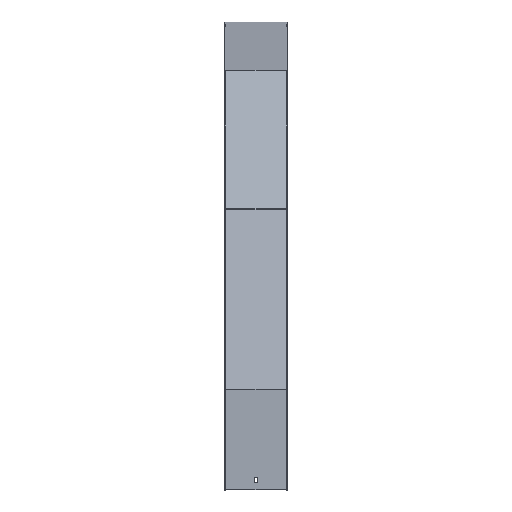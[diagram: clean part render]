
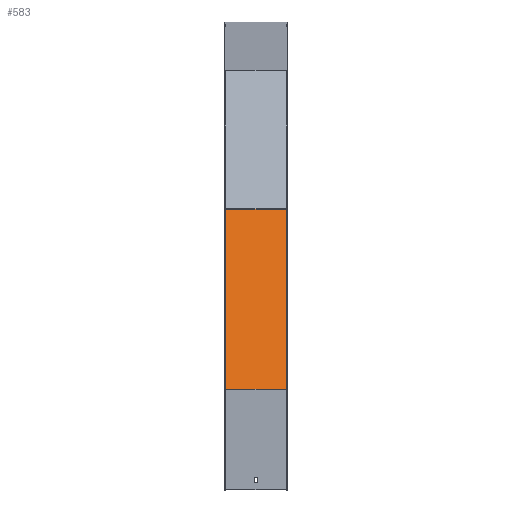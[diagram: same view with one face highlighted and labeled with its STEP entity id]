
A CAD part, top view. The second image highlights one B-rep face of the part: STEP entity #583.
In plain terms, the highlighted planar face has unit normal (0, 0.259, 0.966).
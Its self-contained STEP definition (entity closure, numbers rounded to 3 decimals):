
#15 = EDGE_CURVE ( 'NONE', #332, #243, #73, .T. ) ;
#21 = LINE ( 'NONE', #1032, #404 ) ;
#23 = VECTOR ( 'NONE', #341, 1000. ) ;
#31 = DIRECTION ( 'NONE',  ( -1., 0., 0. ) ) ;
#34 = DIRECTION ( 'NONE',  ( -1., 0., 0. ) ) ;
#35 = PLANE ( 'NONE',  #772 ) ;
#37 = ORIENTED_EDGE ( 'NONE', *, *, #1097, .F. ) ;
#67 = ORIENTED_EDGE ( 'NONE', *, *, #445, .T. ) ;
#73 = LINE ( 'NONE', #423, #23 ) ;
#96 = CARTESIAN_POINT ( 'NONE',  ( 51.5, -287.651, 690.361 ) ) ;
#114 = CARTESIAN_POINT ( 'NONE',  ( 51.5, -584.183, 769.816 ) ) ;
#144 = VECTOR ( 'NONE', #31, 1000. ) ;
#164 = CARTESIAN_POINT ( 'NONE',  ( -51.5, -287.651, 690.361 ) ) ;
#217 = EDGE_CURVE ( 'NONE', #1079, #715, #291, .T. ) ;
#243 = VERTEX_POINT ( 'NONE', #114 ) ;
#291 = LINE ( 'NONE', #708, #1073 ) ;
#297 = FACE_OUTER_BOUND ( 'NONE', #621, .T. ) ;
#300 = DIRECTION ( 'NONE',  ( 0., -0.966, 0.259 ) ) ;
#320 = DIRECTION ( 'NONE',  ( 0., -0.259, -0.966 ) ) ;
#332 = VERTEX_POINT ( 'NONE', #96 ) ;
#341 = DIRECTION ( 'NONE',  ( 0., -0.966, 0.259 ) ) ;
#404 = VECTOR ( 'NONE', #34, 1000. ) ;
#423 = CARTESIAN_POINT ( 'NONE',  ( 51.5, -292.828, 691.748 ) ) ;
#445 = EDGE_CURVE ( 'NONE', #332, #1079, #638, .T. ) ;
#583 = ADVANCED_FACE ( 'NONE', ( #297 ), #35, .F. ) ;
#621 = EDGE_LOOP ( 'NONE', ( #1040, #37, #859, #67 ) ) ;
#638 = LINE ( 'NONE', #802, #144 ) ;
#708 = CARTESIAN_POINT ( 'NONE',  ( -51.5, -292.828, 691.748 ) ) ;
#715 = VERTEX_POINT ( 'NONE', #844 ) ;
#772 = AXIS2_PLACEMENT_3D ( 'NONE', #988, #320, #1064 ) ;
#802 = CARTESIAN_POINT ( 'NONE',  ( 51.5, -287.651, 690.361 ) ) ;
#844 = CARTESIAN_POINT ( 'NONE',  ( -51.5, -584.183, 769.816 ) ) ;
#859 = ORIENTED_EDGE ( 'NONE', *, *, #15, .F. ) ;
#988 = CARTESIAN_POINT ( 'NONE',  ( 51.5, -292.828, 691.748 ) ) ;
#1032 = CARTESIAN_POINT ( 'NONE',  ( 51.5, -584.183, 769.816 ) ) ;
#1040 = ORIENTED_EDGE ( 'NONE', *, *, #217, .T. ) ;
#1064 = DIRECTION ( 'NONE',  ( 0., 0.966, -0.259 ) ) ;
#1073 = VECTOR ( 'NONE', #300, 1000. ) ;
#1079 = VERTEX_POINT ( 'NONE', #164 ) ;
#1097 = EDGE_CURVE ( 'NONE', #243, #715, #21, .T. ) ;
